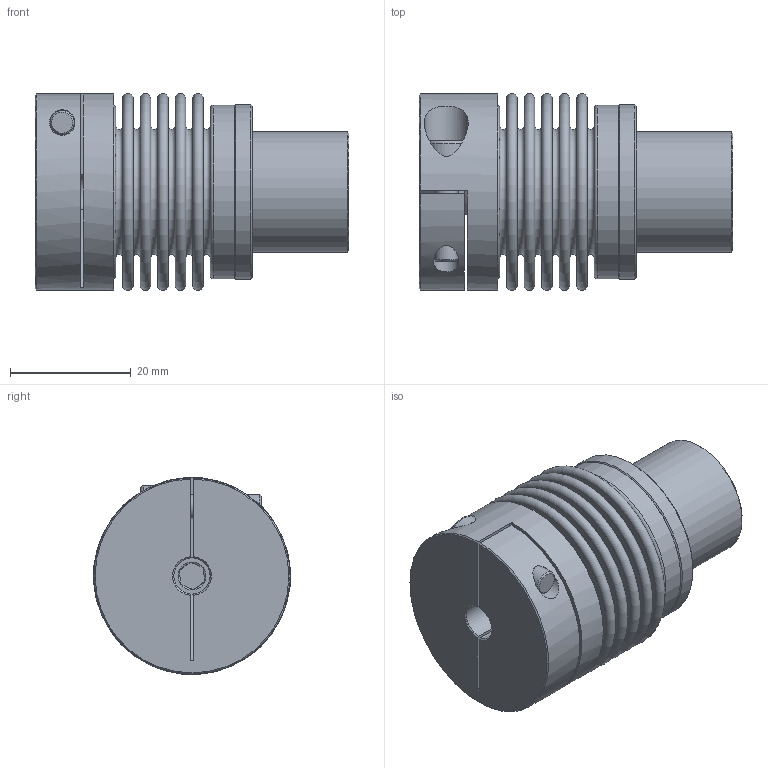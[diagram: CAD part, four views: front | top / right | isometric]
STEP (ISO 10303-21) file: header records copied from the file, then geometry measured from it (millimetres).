
FILE_DESCRIPTION( ( 'Unknown' ), '1' );
FILE_NAME( 'K:/Konstruktion/cad kunden/3D - Daten/KB3/KB3-45-36.stp', 'Unknown', ( 'Unknown' ), ( 'Unknown' ), 'PSStep 16.0.42', 'Unknown', ' ' );
FILE_SCHEMA( ( 'AUTOMOTIVE_DESIGN { 1 0 10303 214 1 1 1 1 }' ) );
Length unit declared in the file: millimetre
Products named in the file (6): Assem1; KN45_Standard_2; BK45_Standard_0; SN45; ISO EN DIN 4762 M4x16; ISO EN DIN 4762 M5x20
Assembly tree (5 placements, depth 2):
  Assem1
    KN45_Standard_2
    BK45_Standard_0
    SN45
    ISO EN DIN 4762 M4x16
    ISO EN DIN 4762 M5x20
Bounding box: 52 x 32.6 x 32.6 mm (x, y, z)
Volume: 21068.6 mm3; surface area: 22510.6 mm2
Topology: 5 solids, 5 shells, 136 faces, 249 edges, 155 vertices
Faces by surface type: plane 63, torus 31, cylinder 21, cone 21
Full cylindrical faces by diameter (mm): 3.5 x1, 4 x3, 4.2 x1, 5 x1, 5.5 x1, 6 x1, 7 x1, 7.3 x1, 8.5 x1, 20 x1, 28.2 x3, 28.8 x2, 29 x1, 32.5 x1
Entity records: 4428 total; most frequent: CARTESIAN_POINT 714, DIRECTION 567, ORIENTED_EDGE 368, AXIS2_PLACEMENT_3D 262, EDGE_LOOP 234, FACE_OUTER_BOUND 186, EDGE_CURVE 184, VERTEX_POINT 156
